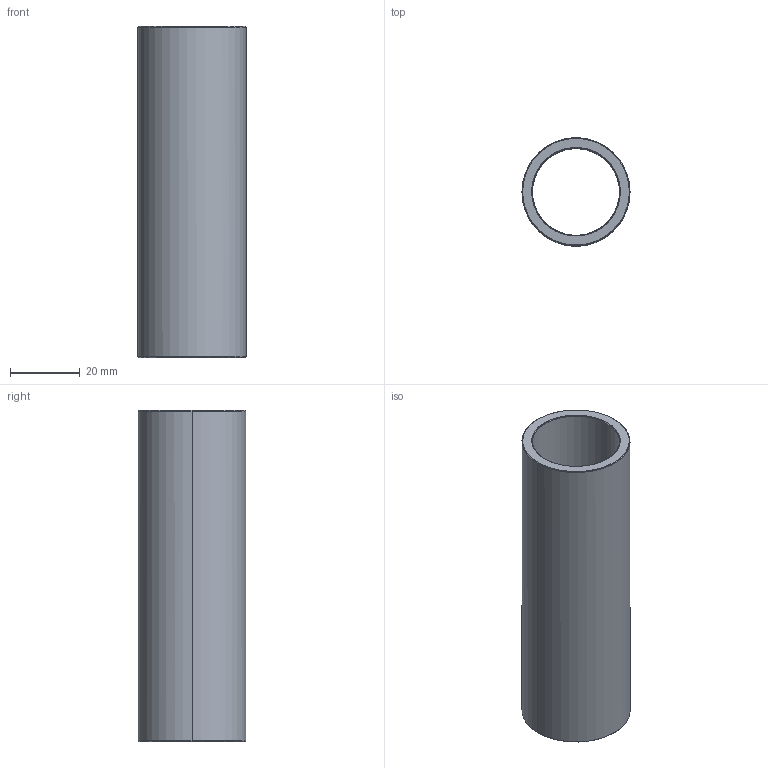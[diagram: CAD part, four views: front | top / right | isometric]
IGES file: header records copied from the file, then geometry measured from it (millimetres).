
Start section: Write IGES format                                    datakit 2008 (c)
Global section: file name: Unknown; native system: DATAKIT Converter; preprocessor: Unknown; author: Unknown; organization: Unknown; date: 950613.180003; units: millimetre
Bounding box: 31 x 30.9 x 95 mm (x, y, z)
Surface area: 17199.8 mm2 (no closed solid volume)
Topology: 0 solids, 0 shells, 14 faces, 56 edges, 56 vertices
Faces by surface type: revolution 12, bspline 2
